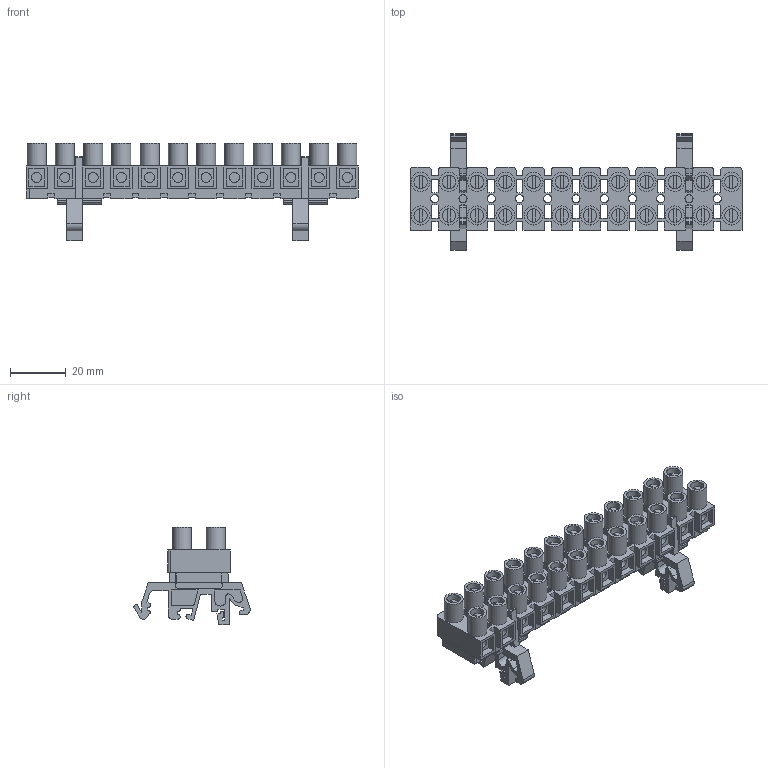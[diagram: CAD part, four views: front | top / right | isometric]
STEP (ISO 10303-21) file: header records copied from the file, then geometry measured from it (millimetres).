
FILE_DESCRIPTION(/* description */ ('Unknown'),/* implementation_level */ '2;1');
FILE_NAME(/* name */ 'MTB 4 DIN',/* time_stamp */ '2021-09-07T07:32:54+02:00',/* author */ ('Unknown'),/* organization */ ('Unknown'),/* preprocessor_version */ 'ST-DEVELOPER v16.7',/* originating_system */ 'Solid Edge',/* authorisation */ 'Unknown');
FILE_SCHEMA (('AUTOMOTIVE_DESIGN {1 0 10303 214 3 1 1}'));
Length unit declared in the file: millimetre
Products named in the file (1): MTB 4 DIN
Bounding box: 118.7 x 41.61 x 35 mm (x, y, z)
Volume: 25855.2 mm3; surface area: 28759.2 mm2
Topology: 3 solids, 3 shells, 1156 faces, 3223 edges, 2132 vertices
Faces by surface type: plane 888, cylinder 268
Full cylindrical faces by diameter (mm): 2.9 x11, 3.6 x24, 4.8 x24, 6.8 x24
Entity records: 36312 total; most frequent: CARTESIAN_POINT 6557, ORIENTED_EDGE 6210, DIRECTION 5950, EDGE_CURVE 3105, LINE 2442, VECTOR 2442, VERTEX_POINT 2097, AXIS2_PLACEMENT_3D 1754
